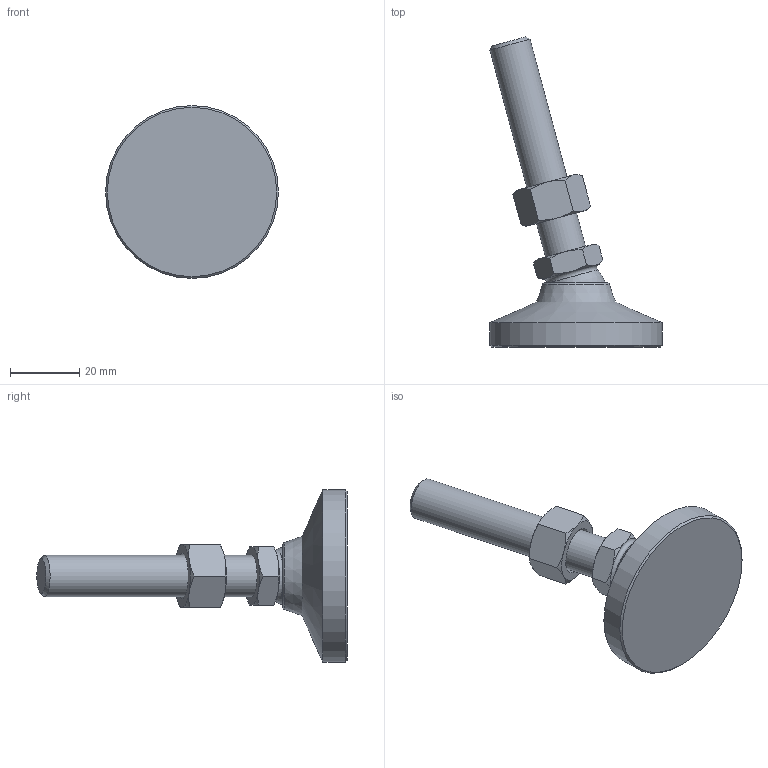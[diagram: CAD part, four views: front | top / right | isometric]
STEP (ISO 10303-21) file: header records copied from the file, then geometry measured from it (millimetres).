
FILE_DESCRIPTION( ( 'STEP AP214' ), ' ' );
FILE_NAME( 'O:/ganter_2015/teil_2/2_5/gn343_2/gn343_2_os/Levelling foot with threaded stud GN 343.2-50-M12-63-OS-(15).stp', '2015-10-26T09:08:00', ( '' ), ( '' ), ' ', 'PARTsolutions', ' ' );
FILE_SCHEMA( ( 'AUTOMOTIVE_DESIGN { 1 0 10303 214 1 1 1 1 }' ) );
Length unit declared in the file: millimetre
Products named in the file (4): Levelling foot with threaded stud GN 343.2-50-M12-63-OS-(15); _Levelling foot with threaded stud GN 343.2-50-M12-63-OS-(15)_foot; _Levelling foot with threaded stud GN 343.2-50-M12-63-OS-(15)_screw; _Stainless Steel-Levelling feet GN 343.2-50-M12-63-OS-(15)_nut
Assembly tree (3 placements, depth 2):
  Levelling foot with threaded stud GN 343.2-50-M12-63-OS-(15)
    _Levelling foot with threaded stud GN 343.2-50-M12-63-OS-(15)_foot
    _Levelling foot with threaded stud GN 343.2-50-M12-63-OS-(15)_screw
    _Stainless Steel-Levelling feet GN 343.2-50-M12-63-OS-(15)_nut
Bounding box: 50 x 89.75 x 50 mm (x, y, z)
Volume: 33591.6 mm3; surface area: 10891.2 mm2
Topology: 3 solids, 3 shells, 55 faces, 116 edges, 67 vertices
Faces by surface type: cone 30, plane 18, cylinder 3, torus 2, sphere 2
Full cylindrical faces by diameter (mm): 10.106 x1, 12 x1, 50 x1
Entity records: 2038 total; most frequent: CARTESIAN_POINT 495, DIRECTION 208, ORIENTED_EDGE 198, EDGE_CURVE 99, AXIS2_PLACEMENT_3D 98, EDGE_LOOP 70, VERTEX_POINT 65, FACE_OUTER_BOUND 60
